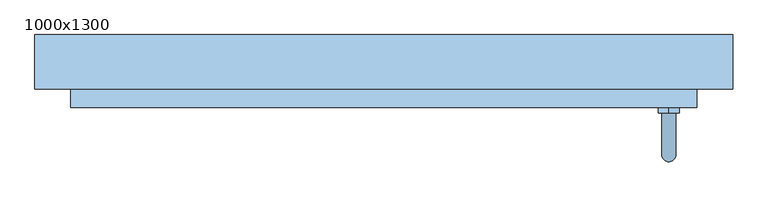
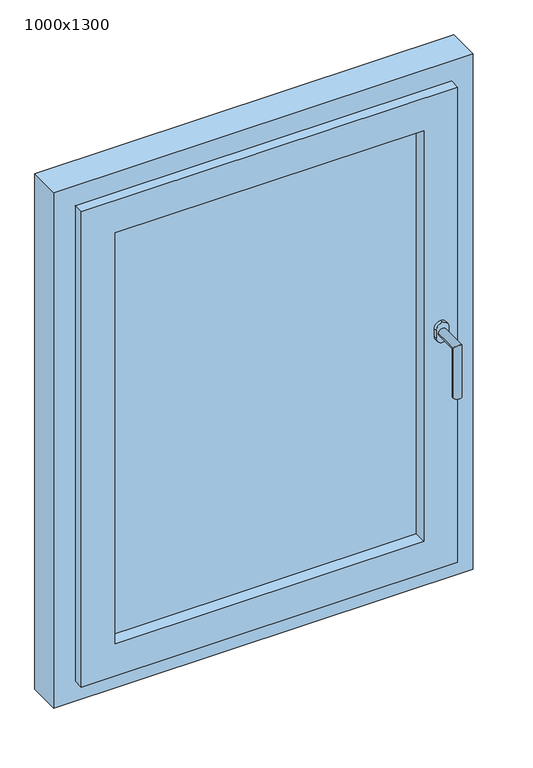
"""IFC4 building model written with IfcOpenShell, lengths in millimetres: window geometry, Jednokridlove rovne : 1000x1300."""

from ifc_helpers import new_model, si_unit, point, frame, frame_2d, origin, place, context, project, spatial, polyline, circle_curve, ellipse_curve, trimmed, segment, composite_curve, outline, extrude, faceted_brep, source, transform, mapped, element, save
from ifc_brep_helpers import plane_surface, cylinder_surface, advanced_brep


def window_1000x1300_1b3cc697(model_context):
    return source(origin(), model_context, "Body", "SolidModel", [
        advanced_brep(
        [(418.5, -37.0, 1550.0), (398.5, -37.0, 1550.0), (418.5, -97.0, 1550.0), (398.5, -97.0, 1550.0), (418.5, -97.0, 1425.0), (398.5, -97.0, 1425.0)],
        [
            (0, 1, circle_curve(frame((408.5, -37.0, 1550.0), z_axis=(0.0, 1.0, 0.0), x_axis=(-1.0, 0.0, 0.0)), 10.0)),
            (1, 0, circle_curve(frame((408.5, -37.0, 1550.0), z_axis=(0.0, 1.0, 0.0), x_axis=(-1.0, 0.0, 0.0)), 10.0)),
            (0, 2),
            (2, 3, ellipse_curve(frame((408.5, -97.0, 1550.0), z_axis=(0.0, 0.7071067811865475, 0.7071067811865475), x_axis=(0.0, 0.7071067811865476, -0.7071067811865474)), 14.1421356, 10.0)),
            (3, 1),
            (3, 2, ellipse_curve(frame((408.5, -97.0, 1550.0), z_axis=(0.0, 0.7071067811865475, 0.7071067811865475), x_axis=(0.0, 0.7071067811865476, -0.7071067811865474)), 14.1421356, 10.0)),
            (4, 5, circle_curve(frame((408.5, -97.0, 1425.0), z_axis=(0.0, 0.0, -1.0), x_axis=(-1.0, 0.0, 0.0)), 10.0)),
            (5, 4, circle_curve(frame((408.5, -97.0, 1425.0), z_axis=(0.0, 0.0, -1.0), x_axis=(-1.0, 0.0, 0.0)), 10.0)),
            (2, 4),
            (5, 3),
        ],
        [
            plane_surface(frame((408.5, -37.0, 1550.0), z_axis=(0.0, 1.0, 0.0), x_axis=(1.0, 0.0, 0.0))),
            cylinder_surface(frame((408.5, -37.0, 1550.0), z_axis=(0.0, 1.0, 0.0), x_axis=(-1.0, 0.0, 0.0)), 10.0),
            plane_surface(frame((408.5, -97.0, 1425.0), z_axis=(0.0, 0.0, -1.0), x_axis=(1.0, 0.0, 0.0))),
            cylinder_surface(frame((408.5, -97.0, 1550.0), z_axis=(0.0, 0.0, 1.0), x_axis=(-1.0, 0.0, 0.0)), 10.0),
        ],
        [
            (0, [[1, 2]]),
            (1, [[-1, 3, 4, 5]]),
            (1, [[-2, -5, 6, -3]]),
            (2, [[7, 8]]),
            (3, [[-4, 9, -8, 10]]),
            (3, [[-6, -10, -7, -9]]),
        ],
    ),
        extrude(outline(composite_curve([segment(trimmed(circle_curve(frame_2d((1560.0, 408.5)), 15.0), [point((1560.0, 423.5))], [point((1575.0, 408.5))], False, "CARTESIAN"), True, "CONTINUOUS"), segment(trimmed(circle_curve(frame_2d((1560.0, 408.5)), 15.0), [point((1575.0, 408.5))], [point((1560.0, 393.5))], False, "CARTESIAN"), True, "CONTINUOUS"), segment(polyline([(1560.0, 393.5), (1540.0, 393.5)]), True, "CONTINUOUS"), segment(trimmed(circle_curve(frame_2d((1540.0, 408.5)), 15.0), [point((1540.0, 393.5))], [point((1525.0, 408.5))], False, "CARTESIAN"), True, "CONTINUOUS"), segment(trimmed(circle_curve(frame_2d((1540.0, 408.5)), 15.0), [point((1525.0, 408.5))], [point((1540.0, 423.5))], False, "CARTESIAN"), True, "CONTINUOUS"), segment(polyline([(1540.0, 423.5), (1560.0, 423.5)]), True, "CONTINUOUS")], self_intersect=False)), frame((0.0, -37.0, 0.0), z_axis=(0.0, 1.0, 0.0), x_axis=(0.0, 0.0, 1.0)), (0.0, 0.0, 1.0), 8.0),
        extrude(outline(polyline([(900.0, -500.0), (900.0, 500.0), (2200.0, 500.0), (2200.0, -500.0), (900.0, -500.0)]), holes=[polyline([(2119.0, -419.0), (2119.0, 419.0), (981.0, 419.0), (981.0, -419.0), (2119.0, -419.0)])]), frame((0.0, -3.0, 0.0), z_axis=(0.0, 1.0, 0.0), x_axis=(0.0, 0.0, 1.0)), (0.0, 0.0, 1.0), 78.0),
        extrude(outline(polyline([(368.0, 2.5), (-368.0, 2.5), (-368.0, 17.5), (368.0, 17.5), (368.0, 2.5)])), frame((0.0, 0.0, 1032.0), z_axis=(0.0, 0.0, 1.0), x_axis=(1.0, 0.0, 0.0)), (0.0, 0.0, 1.0), 1036.0),
        faceted_brep([(-419.0, 49.0, 981.0), (-419.0, -3.0, 981.0), (-419.0, -3.0, 2119.0), (-419.0, 49.0, 2119.0), (-368.0, -29.0, 1032.0), (-368.0, 49.0, 1032.0), (-368.0, 49.0, 2068.0), (-368.0, -29.0, 2068.0), (-449.0, -3.0, 951.0), (-449.0, -29.0, 951.0), (-449.0, -29.0, 2149.0), (-449.0, -3.0, 2149.0), (419.0, -3.0, 2119.0), (419.0, 49.0, 2119.0), (368.0, 49.0, 2068.0), (368.0, -29.0, 2068.0), (449.0, -29.0, 2149.0), (449.0, -3.0, 2149.0), (419.0, -3.0, 981.0), (419.0, 49.0, 981.0), (368.0, 49.0, 1032.0), (368.0, -29.0, 1032.0), (449.0, -29.0, 951.0), (449.0, -3.0, 951.0)], [[[0, 1, 2, 3]], [[4, 5, 6, 7]], [[8, 9, 10, 11]], [[3, 2, 12, 13]], [[7, 6, 14, 15]], [[11, 10, 16, 17]], [[13, 12, 18, 19]], [[15, 14, 20, 21]], [[17, 16, 22, 23]], [[19, 18, 1, 0]], [[3, 13, 19, 0], [5, 20, 14, 6]], [[21, 20, 5, 4]], [[9, 22, 16, 10], [7, 15, 21, 4]], [[23, 22, 9, 8]], [[11, 17, 23, 8], [1, 18, 12, 2]]]),
    ])


if __name__ == "__main__":
    model = new_model("IFC4")
    model_context = context("Model", 3, world=origin())
    ifc_project = project(units=[si_unit("LENGTHUNIT", "METRE", prefix="MILLI")], contexts=[model_context])
    site = spatial("IfcSite", under=ifc_project)
    building = spatial("IfcBuilding", under=site)
    placement = place(None, origin())
    window_1000x1300_shape = window_1000x1300_1b3cc697(model_context)
    element("IfcWindow", 1, ObjectType="Jednokridlove rovne : 1000x1300", at=placement, inside=building, context=model_context, shape_type="MappedRepresentation", body=[
        mapped(window_1000x1300_shape, transform((0.0, 0.0, 0.0), x_axis=(1.0, 0.0, 0.0), y_axis=(0.0, 1.0, 0.0), z_axis=(0.0, 0.0, 1.0))),
    ])
    save(model, "model.ifc")
